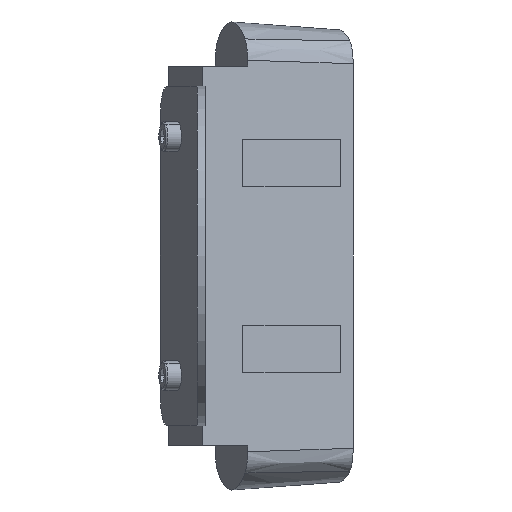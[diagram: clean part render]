
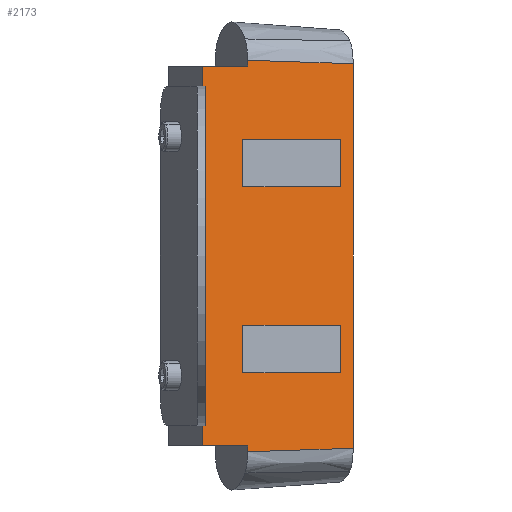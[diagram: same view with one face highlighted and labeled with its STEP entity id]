
A CAD part, left-side view. The second image highlights one B-rep face of the part: STEP entity #2173.
In plain terms, the highlighted planar face has unit normal (-0.942, -0.336, 0).
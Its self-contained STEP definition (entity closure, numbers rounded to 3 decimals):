
#70 = CARTESIAN_POINT ( 'NONE',  ( 50.158, -9.462, 45. ) ) ;
#78 = CARTESIAN_POINT ( 'NONE',  ( 52.598, -16.315, -36.646 ) ) ;
#88 = CARTESIAN_POINT ( 'NONE',  ( 57.225, -29.309, -36.205 ) ) ;
#106 = DIRECTION ( 'NONE',  ( 0.335, -0.942, 0. ) ) ;
#112 = CARTESIAN_POINT ( 'NONE',  ( 47.129, -0.956, 13. ) ) ;
#140 = CARTESIAN_POINT ( 'NONE',  ( 50.158, -9.462, 35.75 ) ) ;
#142 = EDGE_CURVE ( 'NONE', #2896, #1456, #1059, .T. ) ;
#159 = DIRECTION ( 'NONE',  ( 0.335, -0.942, 0. ) ) ;
#191 = VECTOR ( 'NONE', #772, 1000. ) ;
#216 = EDGE_CURVE ( 'NONE', #2386, #1169, #1023, .T. ) ;
#249 = DIRECTION ( 'NONE',  ( 0., 0., -1. ) ) ;
#255 = VERTEX_POINT ( 'NONE', #1402 ) ;
#278 = CARTESIAN_POINT ( 'NONE',  ( 50.158, -9.462, -35.75 ) ) ;
#291 = LINE ( 'NONE', #2897, #2005 ) ;
#327 = DIRECTION ( 'NONE',  ( 0., 0., -1. ) ) ;
#348 = ORIENTED_EDGE ( 'NONE', *, *, #1005, .T. ) ;
#356 = DIRECTION ( 'NONE',  ( -0.335, 0.942, 0. ) ) ;
#373 = DIRECTION ( 'NONE',  ( 0., 0., 1. ) ) ;
#380 = CARTESIAN_POINT ( 'NONE',  ( 50.158, -9.462, -36.847 ) ) ;
#427 = EDGE_CURVE ( 'NONE', #812, #583, #2687, .T. ) ;
#450 = VECTOR ( 'NONE', #578, 1000. ) ;
#452 = LINE ( 'NONE', #577, #955 ) ;
#481 = DIRECTION ( 'NONE',  ( 0.335, -0.942, 0. ) ) ;
#504 = VERTEX_POINT ( 'NONE', #1740 ) ;
#539 = EDGE_LOOP ( 'NONE', ( #765, #1661, #348, #2828, #2220, #2704, #3003, #1374 ) ) ;
#556 = LINE ( 'NONE', #2270, #2761 ) ;
#573 = CARTESIAN_POINT ( 'NONE',  ( 47.129, -0.956, -22. ) ) ;
#577 = CARTESIAN_POINT ( 'NONE',  ( 47.129, -0.956, -35.75 ) ) ;
#578 = DIRECTION ( 'NONE',  ( 0., 0., -1. ) ) ;
#583 = VERTEX_POINT ( 'NONE', #380 ) ;
#642 = EDGE_CURVE ( 'NONE', #1431, #2896, #556, .T. ) ;
#648 = EDGE_LOOP ( 'NONE', ( #862, #2605, #2366, #842 ) ) ;
#660 = LINE ( 'NONE', #573, #872 ) ;
#683 = CARTESIAN_POINT ( 'NONE',  ( 49.822, -8.517, -22. ) ) ;
#696 = FACE_BOUND ( 'NONE', #1469, .T. ) ;
#748 = CARTESIAN_POINT ( 'NONE',  ( 56.216, -26.474, 13. ) ) ;
#765 = ORIENTED_EDGE ( 'NONE', *, *, #1529, .T. ) ;
#772 = DIRECTION ( 'NONE',  ( 0., 0., -1. ) ) ;
#795 = CARTESIAN_POINT ( 'NONE',  ( 52.598, -16.315, 36.646 ) ) ;
#796 = VECTOR ( 'NONE', #915, 1000. ) ;
#812 = VERTEX_POINT ( 'NONE', #278 ) ;
#816 = VERTEX_POINT ( 'NONE', #2805 ) ;
#818 = CARTESIAN_POINT ( 'NONE',  ( 50.158, -9.462, 36.847 ) ) ;
#842 = ORIENTED_EDGE ( 'NONE', *, *, #2567, .T. ) ;
#862 = ORIENTED_EDGE ( 'NONE', *, *, #216, .T. ) ;
#872 = VECTOR ( 'NONE', #1492, 1000. ) ;
#897 = EDGE_CURVE ( 'NONE', #1384, #816, #1491, .T. ) ;
#906 = VERTEX_POINT ( 'NONE', #1941 ) ;
#915 = DIRECTION ( 'NONE',  ( 0., 0., -1. ) ) ;
#924 = DIRECTION ( 'NONE',  ( 0., 0., 1. ) ) ;
#927 = CARTESIAN_POINT ( 'NONE',  ( 57.225, -29.309, 36.205 ) ) ;
#955 = VECTOR ( 'NONE', #106, 1000. ) ;
#964 = ORIENTED_EDGE ( 'NONE', *, *, #1658, .T. ) ;
#965 = CARTESIAN_POINT ( 'NONE',  ( 56.216, -26.474, -22. ) ) ;
#1005 = EDGE_CURVE ( 'NONE', #2676, #1384, #1472, .T. ) ;
#1023 = LINE ( 'NONE', #1156, #2052 ) ;
#1025 = EDGE_CURVE ( 'NONE', #906, #812, #452, .T. ) ;
#1045 = AXIS2_PLACEMENT_3D ( 'NONE', #2248, #2024, #356 ) ;
#1059 = LINE ( 'NONE', #1342, #1312 ) ;
#1114 = ORIENTED_EDGE ( 'NONE', *, *, #142, .T. ) ;
#1117 = CARTESIAN_POINT ( 'NONE',  ( 49.822, -8.517, 22. ) ) ;
#1154 = CARTESIAN_POINT ( 'NONE',  ( 47.129, -0.956, 22. ) ) ;
#1156 = CARTESIAN_POINT ( 'NONE',  ( 49.822, -8.517, 45. ) ) ;
#1169 = VERTEX_POINT ( 'NONE', #1117 ) ;
#1194 = CARTESIAN_POINT ( 'NONE',  ( 49.822, -8.517, -13. ) ) ;
#1202 = VECTOR ( 'NONE', #481, 1000. ) ;
#1216 = LINE ( 'NONE', #2348, #1496 ) ;
#1266 = EDGE_CURVE ( 'NONE', #255, #906, #2259, .T. ) ;
#1311 = ORIENTED_EDGE ( 'NONE', *, *, #642, .T. ) ;
#1312 = VECTOR ( 'NONE', #2061, 1000. ) ;
#1342 = CARTESIAN_POINT ( 'NONE',  ( 56.216, -26.474, 45. ) ) ;
#1351 = DIRECTION ( 'NONE',  ( -0.335, 0.942, 0. ) ) ;
#1374 = ORIENTED_EDGE ( 'NONE', *, *, #427, .T. ) ;
#1384 = VERTEX_POINT ( 'NONE', #2602 ) ;
#1385 = VECTOR ( 'NONE', #1351, 1000. ) ;
#1402 = CARTESIAN_POINT ( 'NONE',  ( 47.129, -0.956, 35.75 ) ) ;
#1410 = LINE ( 'NONE', #1946, #1480 ) ;
#1417 = CARTESIAN_POINT ( 'NONE',  ( 49.822, -8.517, 13. ) ) ;
#1431 = VERTEX_POINT ( 'NONE', #1194 ) ;
#1456 = VERTEX_POINT ( 'NONE', #965 ) ;
#1469 = EDGE_LOOP ( 'NONE', ( #2670, #964, #1311, #1114 ) ) ;
#1470 = CARTESIAN_POINT ( 'NONE',  ( 54.954, -22.931, -36.432 ) ) ;
#1472 = B_SPLINE_CURVE_WITH_KNOTS ( 'NONE', 3,
 ( #1976, #1507, #795, #818 ),
 .UNSPECIFIED., .F., .F.,
 ( 4, 4 ),
 ( 0., 1. ),
 .UNSPECIFIED. ) ;
#1480 = VECTOR ( 'NONE', #327, 1000. ) ;
#1491 = LINE ( 'NONE', #70, #191 ) ;
#1492 = DIRECTION ( 'NONE',  ( -0.335, 0.942, 0. ) ) ;
#1496 = VECTOR ( 'NONE', #249, 1000. ) ;
#1507 = CARTESIAN_POINT ( 'NONE',  ( 54.954, -22.931, 36.432 ) ) ;
#1516 = VERTEX_POINT ( 'NONE', #1711 ) ;
#1529 = EDGE_CURVE ( 'NONE', #583, #504, #2383, .T. ) ;
#1658 = EDGE_CURVE ( 'NONE', #2357, #1431, #291, .T. ) ;
#1661 = ORIENTED_EDGE ( 'NONE', *, *, #2699, .F. ) ;
#1711 = CARTESIAN_POINT ( 'NONE',  ( 56.216, -26.474, 22. ) ) ;
#1740 = CARTESIAN_POINT ( 'NONE',  ( 57.225, -29.309, -36.205 ) ) ;
#1787 = PLANE ( 'NONE',  #1045 ) ;
#1828 = EDGE_CURVE ( 'NONE', #1169, #1516, #2681, .T. ) ;
#1901 = LINE ( 'NONE', #140, #2821 ) ;
#1932 = FACE_BOUND ( 'NONE', #648, .T. ) ;
#1934 = EDGE_CURVE ( 'NONE', #1456, #2357, #660, .T. ) ;
#1941 = CARTESIAN_POINT ( 'NONE',  ( 47.129, -0.956, -35.75 ) ) ;
#1946 = CARTESIAN_POINT ( 'NONE',  ( 56.216, -26.474, 45. ) ) ;
#1948 = EDGE_CURVE ( 'NONE', #1516, #2368, #1410, .T. ) ;
#1954 = CARTESIAN_POINT ( 'NONE',  ( 56.216, -26.474, -13. ) ) ;
#1976 = CARTESIAN_POINT ( 'NONE',  ( 57.225, -29.309, 36.205 ) ) ;
#2005 = VECTOR ( 'NONE', #373, 1000. ) ;
#2024 = DIRECTION ( 'NONE',  ( -0.942, -0.335, 0. ) ) ;
#2052 = VECTOR ( 'NONE', #924, 1000. ) ;
#2061 = DIRECTION ( 'NONE',  ( 0., 0., -1. ) ) ;
#2147 = EDGE_CURVE ( 'NONE', #816, #255, #1901, .T. ) ;
#2173 = ADVANCED_FACE ( 'NONE', ( #1932, #2211, #696 ), #1787, .T. ) ;
#2202 = CARTESIAN_POINT ( 'NONE',  ( 50.158, -9.462, 45. ) ) ;
#2211 = FACE_OUTER_BOUND ( 'NONE', #539, .T. ) ;
#2220 = ORIENTED_EDGE ( 'NONE', *, *, #2147, .T. ) ;
#2248 = CARTESIAN_POINT ( 'NONE',  ( 47.129, -0.956, 45. ) ) ;
#2259 = LINE ( 'NONE', #2990, #796 ) ;
#2270 = CARTESIAN_POINT ( 'NONE',  ( 47.129, -0.956, -13. ) ) ;
#2348 = CARTESIAN_POINT ( 'NONE',  ( 57.225, -29.309, 0. ) ) ;
#2357 = VERTEX_POINT ( 'NONE', #683 ) ;
#2366 = ORIENTED_EDGE ( 'NONE', *, *, #1948, .T. ) ;
#2368 = VERTEX_POINT ( 'NONE', #748 ) ;
#2383 = B_SPLINE_CURVE_WITH_KNOTS ( 'NONE', 3,
 ( #2424, #78, #1470, #88 ),
 .UNSPECIFIED., .F., .F.,
 ( 4, 4 ),
 ( 0., 1. ),
 .UNSPECIFIED. ) ;
#2386 = VERTEX_POINT ( 'NONE', #1417 ) ;
#2424 = CARTESIAN_POINT ( 'NONE',  ( 50.158, -9.462, -36.847 ) ) ;
#2567 = EDGE_CURVE ( 'NONE', #2368, #2386, #2628, .T. ) ;
#2602 = CARTESIAN_POINT ( 'NONE',  ( 50.158, -9.462, 36.847 ) ) ;
#2605 = ORIENTED_EDGE ( 'NONE', *, *, #1828, .T. ) ;
#2628 = LINE ( 'NONE', #112, #1385 ) ;
#2670 = ORIENTED_EDGE ( 'NONE', *, *, #1934, .T. ) ;
#2676 = VERTEX_POINT ( 'NONE', #927 ) ;
#2681 = LINE ( 'NONE', #1154, #1202 ) ;
#2687 = LINE ( 'NONE', #2202, #450 ) ;
#2699 = EDGE_CURVE ( 'NONE', #2676, #504, #1216, .T. ) ;
#2704 = ORIENTED_EDGE ( 'NONE', *, *, #1266, .T. ) ;
#2761 = VECTOR ( 'NONE', #159, 1000. ) ;
#2805 = CARTESIAN_POINT ( 'NONE',  ( 50.158, -9.462, 35.75 ) ) ;
#2821 = VECTOR ( 'NONE', #2923, 1000. ) ;
#2828 = ORIENTED_EDGE ( 'NONE', *, *, #897, .T. ) ;
#2896 = VERTEX_POINT ( 'NONE', #1954 ) ;
#2897 = CARTESIAN_POINT ( 'NONE',  ( 49.822, -8.517, 45. ) ) ;
#2923 = DIRECTION ( 'NONE',  ( -0.335, 0.942, 0. ) ) ;
#2990 = CARTESIAN_POINT ( 'NONE',  ( 47.129, -0.956, 0. ) ) ;
#3003 = ORIENTED_EDGE ( 'NONE', *, *, #1025, .T. ) ;
